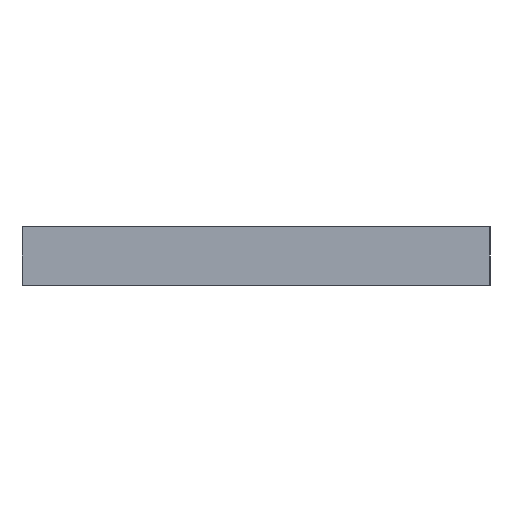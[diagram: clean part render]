
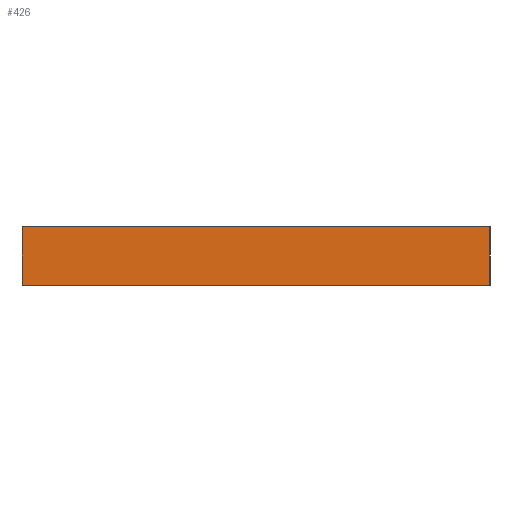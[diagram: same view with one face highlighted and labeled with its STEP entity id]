
A CAD part, left-side view. The second image highlights one B-rep face of the part: STEP entity #426.
In plain terms, the highlighted planar face has unit normal (-1, 0, 0).
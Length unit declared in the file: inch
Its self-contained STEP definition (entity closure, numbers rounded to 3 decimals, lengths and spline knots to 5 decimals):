
#6 = CARTESIAN_POINT ( 'NONE',  ( -15.62069, 0., 0.375 ) ) ;
#12 = AXIS2_PLACEMENT_3D ( 'NONE', #6, #30, #37 ) ;
#30 = DIRECTION ( 'NONE',  ( 1., 0., 0. ) ) ;
#37 = DIRECTION ( 'NONE',  ( 0., 0., -1. ) ) ;
#44 = CARTESIAN_POINT ( 'NONE',  ( -15.62069, 3.38793, 0.375 ) ) ;
#83 = EDGE_CURVE ( 'NONE', #1117, #1072, #1800, .T. ) ;
#218 = EDGE_LOOP ( 'NONE', ( #1136, #1118, #1831, #1901 ) ) ;
#285 = CARTESIAN_POINT ( 'NONE',  ( -15.62069, 0.38793, 0.375 ) ) ;
#299 = PLANE ( 'NONE',  #12 ) ;
#417 = FACE_OUTER_BOUND ( 'NONE', #218, .T. ) ;
#426 = ADVANCED_FACE ( 'NONE', ( #417 ), #299, .F. ) ;
#437 = VERTEX_POINT ( 'NONE', #44 ) ;
#548 = CARTESIAN_POINT ( 'NONE',  ( -15.62069, 3.38793, 0.375 ) ) ;
#859 = DIRECTION ( 'NONE',  ( 0., 0., -1. ) ) ;
#978 = VECTOR ( 'NONE', #1412, 39.37008 ) ;
#1072 = VERTEX_POINT ( 'NONE', #1655 ) ;
#1117 = VERTEX_POINT ( 'NONE', #1177 ) ;
#1118 = ORIENTED_EDGE ( 'NONE', *, *, #1173, .F. ) ;
#1128 = VECTOR ( 'NONE', #1779, 39.37008 ) ;
#1136 = ORIENTED_EDGE ( 'NONE', *, *, #83, .T. ) ;
#1147 = EDGE_CURVE ( 'NONE', #437, #1117, #2080, .T. ) ;
#1173 = EDGE_CURVE ( 'NONE', #1544, #1072, #2105, .T. ) ;
#1177 = CARTESIAN_POINT ( 'NONE',  ( -15.62069, 3.38793, 0. ) ) ;
#1210 = VECTOR ( 'NONE', #859, 39.37008 ) ;
#1254 = CARTESIAN_POINT ( 'NONE',  ( -15.62069, 0.38793, 0.375 ) ) ;
#1412 = DIRECTION ( 'NONE',  ( 0., 0., -1. ) ) ;
#1443 = CARTESIAN_POINT ( 'NONE',  ( -15.62069, 0., 0.375 ) ) ;
#1544 = VERTEX_POINT ( 'NONE', #285 ) ;
#1647 = CARTESIAN_POINT ( 'NONE',  ( -15.62069, 0., 0. ) ) ;
#1655 = CARTESIAN_POINT ( 'NONE',  ( -15.62069, 0.38793, 0. ) ) ;
#1779 = DIRECTION ( 'NONE',  ( 0., -1., 0. ) ) ;
#1800 = LINE ( 'NONE', #1647, #2173 ) ;
#1831 = ORIENTED_EDGE ( 'NONE', *, *, #2228, .F. ) ;
#1895 = DIRECTION ( 'NONE',  ( 0., -1., 0. ) ) ;
#1901 = ORIENTED_EDGE ( 'NONE', *, *, #1147, .T. ) ;
#1946 = LINE ( 'NONE', #1443, #1128 ) ;
#2080 = LINE ( 'NONE', #548, #1210 ) ;
#2105 = LINE ( 'NONE', #1254, #978 ) ;
#2173 = VECTOR ( 'NONE', #1895, 39.37008 ) ;
#2228 = EDGE_CURVE ( 'NONE', #437, #1544, #1946, .T. ) ;
